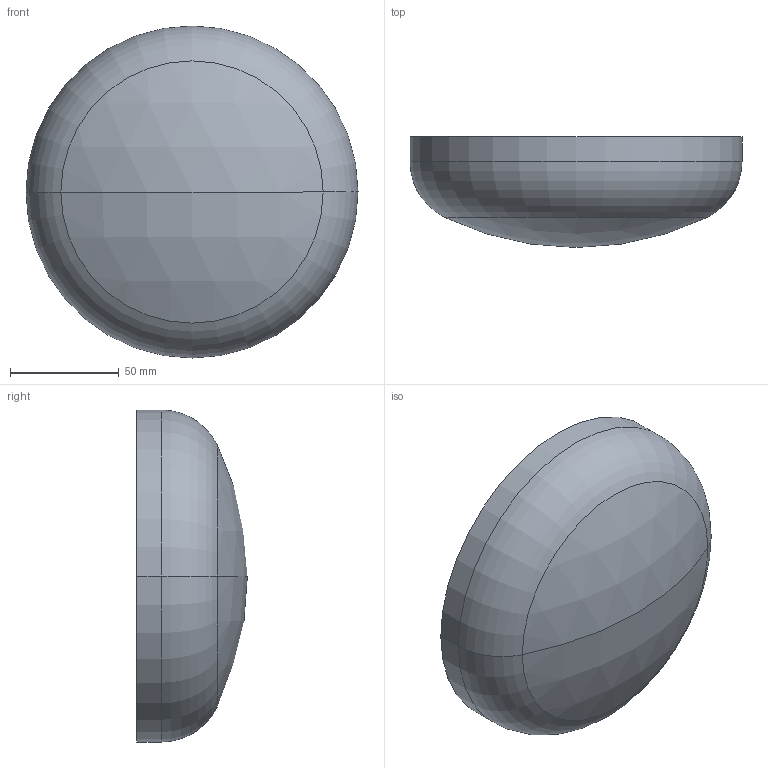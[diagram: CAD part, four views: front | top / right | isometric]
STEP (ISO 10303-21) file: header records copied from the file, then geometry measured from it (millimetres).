
FILE_DESCRIPTION (( 'STEP AP214' ), '1' );
FILE_NAME ('E16W 6.0 REV4.STEP', '2025-07-10T15:51:14', ( '' ), ( '' ), 'SwSTEP 2.0', 'SolidWorks 2022', '' );
FILE_SCHEMA (( 'AUTOMOTIVE_DESIGN' ));
Length unit declared in the file: inch
Products named in the file (1): E16W 6.0 REV4
Bounding box: 152.4 x 50.8 x 152.4 mm (x, y, z)
Volume: 83914.2 mm3; surface area: 61936 mm2
Topology: 1 solids, 1 shells, 13 faces, 24 edges, 14 vertices
Faces by surface type: cylinder 4, torus 4, sphere 4, plane 1
Entity records: 370 total; most frequent: DIRECTION 72, CARTESIAN_POINT 52, ORIENTED_EDGE 48, AXIS2_PLACEMENT_3D 34, EDGE_CURVE 24, CIRCLE 20, EDGE_LOOP 14, VERTEX_POINT 14
